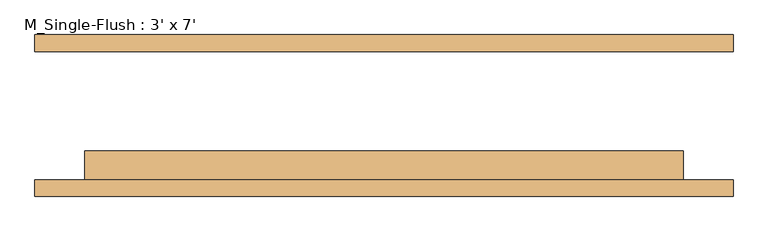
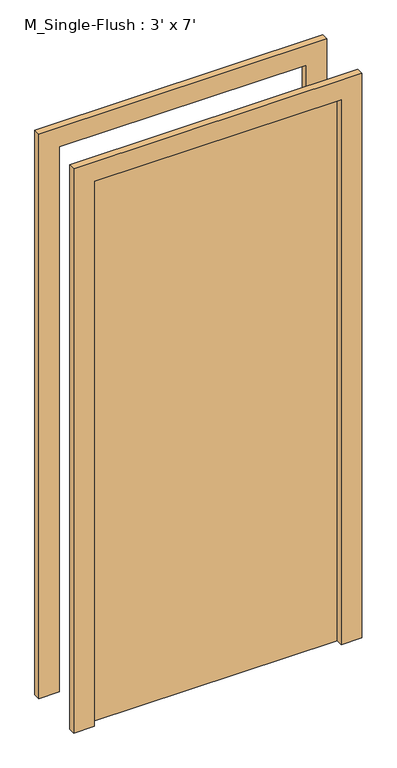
"""IFC4 building model written with IfcOpenShell, lengths in millimetres: door geometry, M_Single-Flush : 3' x 7'."""

from ifc_helpers import new_model, si_unit, frame, origin, origin_with_axes, place, context, project, spatial, polyline, outline, extrude, source, transform, mapped, element, save


def m_single_flush_3_x_7_66516a20(model_context):
    return source(origin(), model_context, "Body", "SweptSolid", [
        extrude(outline(polyline([(2209.8, -533.4), (0.0, -533.4), (0.0, -457.2), (2133.6, -457.2), (2133.6, 457.2), (0.0, 457.2), (0.0, 533.4), (2209.8, 533.4), (2209.8, -533.4)])), frame((0.0, -123.825, 0.0), z_axis=(0.0, 1.0, 0.0), x_axis=(0.0, 0.0, 1.0)), (0.0, 0.0, 1.0), 25.4),
        extrude(outline(polyline([(2209.8, 533.4), (2209.8, -533.4), (0.0, -533.4), (0.0, -457.2), (2133.6, -457.2), (2133.6, 457.2), (0.0, 457.2), (0.0, 533.4), (2209.8, 533.4)])), frame((0.0, 98.425, 0.0), z_axis=(0.0, 1.0, 0.0), x_axis=(0.0, 0.0, 1.0)), (0.0, 0.0, 1.0), 25.4),
        extrude(outline(polyline([(457.2, -53.975), (457.2, -98.425), (-457.2, -98.425), (-457.2, -53.975), (457.2, -53.975)])), origin_with_axes(), (0.0, 0.0, 1.0), 2133.6),
    ])


if __name__ == "__main__":
    model = new_model("IFC4")
    model_context = context("Model", 3, world=origin())
    ifc_project = project(units=[si_unit("LENGTHUNIT", "METRE", prefix="MILLI")], contexts=[model_context])
    site = spatial("IfcSite", under=ifc_project)
    building = spatial("IfcBuilding", under=site)
    placement = place(None, origin())
    m_single_flush_3_x_7_shape = m_single_flush_3_x_7_66516a20(model_context)
    element("IfcDoor", 1, ObjectType="M_Single-Flush : 3' x 7'", at=placement, inside=building, context=model_context, shape_type="MappedRepresentation", body=[
        mapped(m_single_flush_3_x_7_shape, transform((0.0, 0.0, 0.0), x_axis=(1.0, 0.0, 0.0), y_axis=(0.0, 1.0, 0.0), z_axis=(0.0, 0.0, 1.0))),
    ])
    save(model, "model.ifc")
